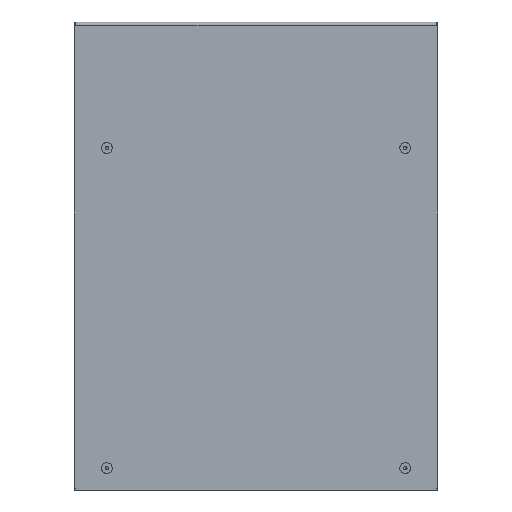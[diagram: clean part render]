
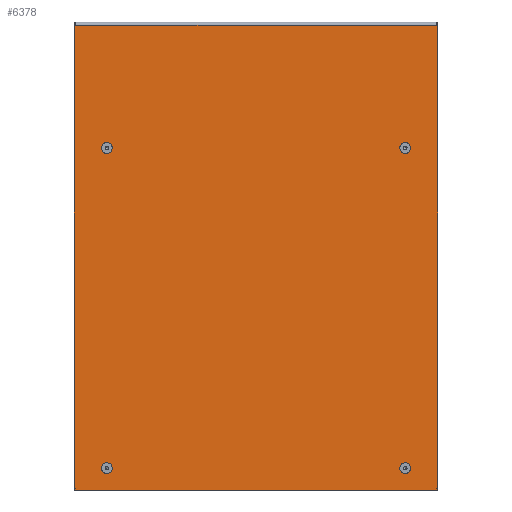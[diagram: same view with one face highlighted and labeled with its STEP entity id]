
A CAD part, left-side view. The second image highlights one B-rep face of the part: STEP entity #6378.
In plain terms, the highlighted planar face has unit normal (-1, 0, 0).
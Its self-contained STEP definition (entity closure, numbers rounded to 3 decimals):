
#220=CIRCLE('',#8176,5.125);
#221=CIRCLE('',#8177,5.125);
#222=CIRCLE('',#8178,5.125);
#223=CIRCLE('',#8179,5.125);
#515=B_SPLINE_CURVE_WITH_KNOTS('',3,(#10962,#10963,#10964,#10965,#10966),
 .UNSPECIFIED.,.F.,.F.,(4,1,4),(0.007,0.009,
0.01),.UNSPECIFIED.);
#516=B_SPLINE_CURVE_WITH_KNOTS('',3,(#10970,#10971,#10972,#10973,#10974),
 .UNSPECIFIED.,.F.,.F.,(4,1,4),(0.007,0.009,
0.01),.UNSPECIFIED.);
#750=ORIENTED_EDGE('',*,*,#2519,.F.);
#751=ORIENTED_EDGE('',*,*,#2520,.F.);
#752=ORIENTED_EDGE('',*,*,#2521,.F.);
#753=ORIENTED_EDGE('',*,*,#2522,.F.);
#754=ORIENTED_EDGE('',*,*,#2514,.F.);
#755=ORIENTED_EDGE('',*,*,#2511,.T.);
#756=ORIENTED_EDGE('',*,*,#2523,.T.);
#757=ORIENTED_EDGE('',*,*,#2524,.F.);
#758=ORIENTED_EDGE('',*,*,#2476,.F.);
#759=ORIENTED_EDGE('',*,*,#2489,.T.);
#760=ORIENTED_EDGE('',*,*,#2525,.F.);
#761=ORIENTED_EDGE('',*,*,#2526,.T.);
#762=ORIENTED_EDGE('',*,*,#2527,.T.);
#763=ORIENTED_EDGE('',*,*,#2528,.T.);
#764=ORIENTED_EDGE('',*,*,#2529,.T.);
#765=ORIENTED_EDGE('',*,*,#2530,.T.);
#766=ORIENTED_EDGE('',*,*,#2531,.T.);
#767=ORIENTED_EDGE('',*,*,#2532,.F.);
#2476=EDGE_CURVE('',#3360,#3361,#3979,.T.);
#2489=EDGE_CURVE('',#3360,#3371,#3988,.T.);
#2511=EDGE_CURVE('',#3391,#3390,#4005,.T.);
#2514=EDGE_CURVE('',#3391,#3393,#4008,.T.);
#2519=EDGE_CURVE('',#3397,#3397,#220,.T.);
#2520=EDGE_CURVE('',#3398,#3398,#221,.T.);
#2521=EDGE_CURVE('',#3399,#3399,#222,.T.);
#2522=EDGE_CURVE('',#3400,#3400,#223,.T.);
#2523=EDGE_CURVE('',#3390,#3401,#4011,.T.);
#2524=EDGE_CURVE('',#3361,#3401,#4012,.F.);
#2525=EDGE_CURVE('',#3402,#3371,#515,.F.);
#2526=EDGE_CURVE('',#3402,#3403,#4013,.T.);
#2527=EDGE_CURVE('',#3403,#3404,#516,.F.);
#2528=EDGE_CURVE('',#3404,#3405,#4014,.T.);
#2529=EDGE_CURVE('',#3405,#3406,#4015,.F.);
#2530=EDGE_CURVE('',#3406,#3407,#4016,.T.);
#2531=EDGE_CURVE('',#3407,#3408,#4017,.T.);
#2532=EDGE_CURVE('',#3393,#3408,#4018,.T.);
#3360=VERTEX_POINT('',#10849);
#3361=VERTEX_POINT('',#10851);
#3371=VERTEX_POINT('',#10883);
#3390=VERTEX_POINT('',#10928);
#3391=VERTEX_POINT('',#10930);
#3393=VERTEX_POINT('',#10936);
#3397=VERTEX_POINT('',#10952);
#3398=VERTEX_POINT('',#10954);
#3399=VERTEX_POINT('',#10956);
#3400=VERTEX_POINT('',#10958);
#3401=VERTEX_POINT('',#10960);
#3402=VERTEX_POINT('',#10967);
#3403=VERTEX_POINT('',#10969);
#3404=VERTEX_POINT('',#10975);
#3405=VERTEX_POINT('',#10977);
#3406=VERTEX_POINT('',#10979);
#3407=VERTEX_POINT('',#10981);
#3408=VERTEX_POINT('',#10983);
#3979=LINE('',#10850,#4615);
#3988=LINE('',#10884,#4624);
#4005=LINE('',#10929,#4641);
#4008=LINE('',#10935,#4644);
#4011=LINE('',#10959,#4647);
#4012=LINE('',#10961,#4648);
#4013=LINE('',#10968,#4649);
#4014=LINE('',#10976,#4650);
#4015=LINE('',#10978,#4651);
#4016=LINE('',#10980,#4652);
#4017=LINE('',#10982,#4653);
#4018=LINE('',#10984,#4654);
#4615=VECTOR('',#8907,1000.);
#4624=VECTOR('',#8920,1000.);
#4641=VECTOR('',#8955,1000.);
#4644=VECTOR('',#8960,1000.);
#4647=VECTOR('',#8973,1000.);
#4648=VECTOR('',#8974,1000.);
#4649=VECTOR('',#8975,1000.);
#4650=VECTOR('',#8976,1000.);
#4651=VECTOR('',#8977,1000.);
#4652=VECTOR('',#8978,1000.);
#4653=VECTOR('',#8979,1000.);
#4654=VECTOR('',#8980,1000.);
#5185=EDGE_LOOP('',(#750));
#5186=EDGE_LOOP('',(#751));
#5187=EDGE_LOOP('',(#752));
#5188=EDGE_LOOP('',(#753));
#5189=EDGE_LOOP('',(#754,#755,#756,#757,#758,#759,#760,#761,#762,#763,#764,
#765,#766,#767));
#5653=FACE_BOUND('',#5185,.T.);
#5654=FACE_BOUND('',#5186,.T.);
#5655=FACE_BOUND('',#5187,.T.);
#5656=FACE_BOUND('',#5188,.T.);
#5657=FACE_BOUND('',#5189,.T.);
#6118=PLANE('',#8175);
#6378=ADVANCED_FACE('',(#5653,#5654,#5655,#5656,#5657),#6118,.T.);
#8175=AXIS2_PLACEMENT_3D('',#10950,#8963,#8964);
#8176=AXIS2_PLACEMENT_3D('',#10951,#8965,#8966);
#8177=AXIS2_PLACEMENT_3D('',#10953,#8967,#8968);
#8178=AXIS2_PLACEMENT_3D('',#10955,#8969,#8970);
#8179=AXIS2_PLACEMENT_3D('',#10957,#8971,#8972);
#8907=DIRECTION('',(0.,1.,0.));
#8920=DIRECTION('',(0.,0.,1.));
#8955=DIRECTION('',(0.,0.,1.));
#8960=DIRECTION('',(0.,1.,0.));
#8963=DIRECTION('',(-1.,0.,0.));
#8964=DIRECTION('',(0.,-1.,0.));
#8965=DIRECTION('',(-1.,0.,0.));
#8966=DIRECTION('',(0.,-1.,0.));
#8967=DIRECTION('',(-1.,0.,0.));
#8968=DIRECTION('',(0.,-1.,0.));
#8969=DIRECTION('',(-1.,0.,0.));
#8970=DIRECTION('',(0.,-1.,0.));
#8971=DIRECTION('',(-1.,0.,0.));
#8972=DIRECTION('',(0.,-1.,0.));
#8973=DIRECTION('',(0.,0.707,0.708));
#8974=DIRECTION('',(0.,-0.708,-0.707));
#8975=DIRECTION('',(0.,1.,0.));
#8976=DIRECTION('',(0.,0.,-1.));
#8977=DIRECTION('',(0.,1.,0.));
#8978=DIRECTION('',(0.,-0.708,0.707));
#8979=DIRECTION('',(0.,0.707,-0.708));
#8980=DIRECTION('',(0.,0.,1.));
#10849=CARTESIAN_POINT('',(-1.2,-125.6,-321.423));
#10850=CARTESIAN_POINT('',(-1.2,0.,-321.423));
#10851=CARTESIAN_POINT('',(-1.2,-124.4,-321.423));
#10883=CARTESIAN_POINT('',(-1.2,-125.6,317.793));
#10884=CARTESIAN_POINT('',(-1.2,-125.6,0.));
#10928=CARTESIAN_POINT('',(-1.2,-124.398,-321.425));
#10929=CARTESIAN_POINT('',(-1.2,-124.398,0.));
#10930=CARTESIAN_POINT('',(-1.2,-124.398,-322.625));
#10935=CARTESIAN_POINT('',(-1.2,0.,-322.625));
#10936=CARTESIAN_POINT('',(-1.2,373.198,-322.625));
#10950=CARTESIAN_POINT('',(-1.2,0.,0.));
#10951=CARTESIAN_POINT('',(-1.2,329.4,-292.625));
#10952=CARTESIAN_POINT('',(-1.2,324.275,-292.625));
#10953=CARTESIAN_POINT('',(-1.2,-80.6,-292.625));
#10954=CARTESIAN_POINT('',(-1.2,-85.725,-292.625));
#10955=CARTESIAN_POINT('',(-1.2,-80.6,147.37));
#10956=CARTESIAN_POINT('',(-1.2,-85.725,147.37));
#10957=CARTESIAN_POINT('',(-1.2,329.4,147.37));
#10958=CARTESIAN_POINT('',(-1.2,324.275,147.37));
#10959=CARTESIAN_POINT('',(-1.2,98.418,-98.266));
#10960=CARTESIAN_POINT('',(-1.2,-123.1,-320.125));
#10961=CARTESIAN_POINT('',(-1.2,584.551,386.437));
#10962=CARTESIAN_POINT('',(-1.2,-125.6,317.793));
#10963=CARTESIAN_POINT('',(-1.2,-125.116,317.658));
#10964=CARTESIAN_POINT('',(-1.2,-124.194,317.288));
#10965=CARTESIAN_POINT('',(-1.2,-123.429,316.608));
#10966=CARTESIAN_POINT('',(-1.2,-123.1,316.229));
#10967=CARTESIAN_POINT('',(-1.2,-123.1,316.229));
#10968=CARTESIAN_POINT('',(-1.2,0.,316.229));
#10969=CARTESIAN_POINT('',(-1.2,371.9,316.229));
#10970=CARTESIAN_POINT('',(-1.2,374.4,317.793));
#10971=CARTESIAN_POINT('',(-1.2,373.918,317.659));
#10972=CARTESIAN_POINT('',(-1.2,372.978,317.278));
#10973=CARTESIAN_POINT('',(-1.2,372.229,316.608));
#10974=CARTESIAN_POINT('',(-1.2,371.9,316.229));
#10975=CARTESIAN_POINT('',(-1.2,374.4,317.793));
#10976=CARTESIAN_POINT('',(-1.2,374.4,0.));
#10977=CARTESIAN_POINT('',(-1.2,374.4,-321.423));
#10978=CARTESIAN_POINT('',(-1.2,0.,-321.423));
#10979=CARTESIAN_POINT('',(-1.2,373.2,-321.423));
#10980=CARTESIAN_POINT('',(-1.2,-335.751,386.437));
#10981=CARTESIAN_POINT('',(-1.2,371.9,-320.125));
#10982=CARTESIAN_POINT('',(-1.2,26.174,26.134));
#10983=CARTESIAN_POINT('',(-1.2,373.198,-321.425));
#10984=CARTESIAN_POINT('',(-1.2,373.198,-321.425));
